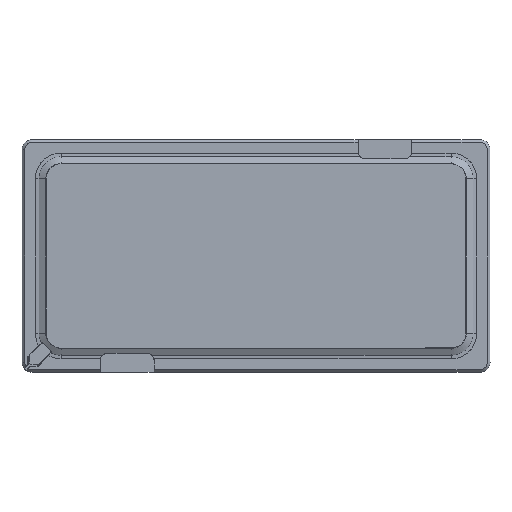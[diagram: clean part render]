
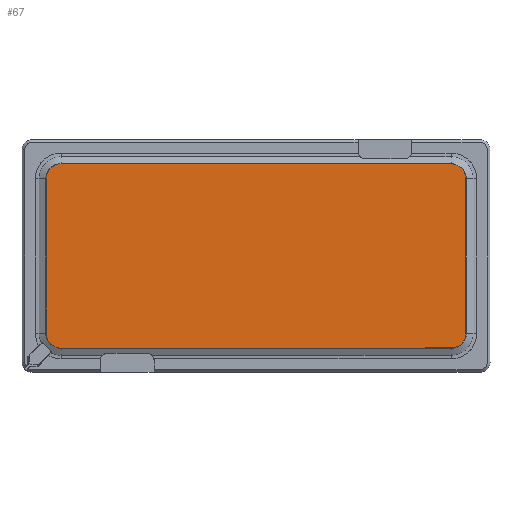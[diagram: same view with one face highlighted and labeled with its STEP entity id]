
A CAD part, front view. The second image highlights one B-rep face of the part: STEP entity #67.
In plain terms, the highlighted planar face has unit normal (0, -1, 0).
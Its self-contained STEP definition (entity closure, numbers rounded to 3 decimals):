
#67=ADVANCED_FACE('',(#222),#2452,.T.);
#222=FACE_OUTER_BOUND('',#379,.T.);
#379=EDGE_LOOP('',(#738));
#738=ORIENTED_EDGE('',*,*,#1371,.F.);
#1371=EDGE_CURVE('',#2163,#2163,#1717,.T.);
#1717=(
BOUNDED_CURVE()
B_SPLINE_CURVE(2,(#4872,#4873,#4874,#4875,#4876,#4877,#4878,#4879,#4880,
#4881,#4882,#4883,#4884,#4885,#4886,#4887,#4888),.UNSPECIFIED.,.T.,.F.)
B_SPLINE_CURVE_WITH_KNOTS((3,2,2,2,2,2,2,2,3),(-232.,0.,13.901,
105.801,119.702,351.702,365.602,457.502,
471.403),.UNSPECIFIED.)
CURVE()
GEOMETRIC_REPRESENTATION_ITEM()
RATIONAL_B_SPLINE_CURVE((1.,1.,1.,0.707,1.,1.,1.,0.707,
1.,1.,1.,0.707,1.,1.,1.,0.707,1.))
REPRESENTATION_ITEM('')
);
#2163=VERTEX_POINT('',#4480);
#2452=PLANE('',#2623);
#2623=AXIS2_PLACEMENT_3D('',#3392,#2733,$);
#2733=DIRECTION('',(0.,-1.,0.));
#3392=CARTESIAN_POINT('',(372.654,52.116,7.645));
#4480=CARTESIAN_POINT('',(384.,52.116,6.55));
#4872=CARTESIAN_POINT('',(384.,52.116,6.55));
#4873=CARTESIAN_POINT('',(500.,52.116,6.55));
#4874=CARTESIAN_POINT('',(616.,52.116,6.55));
#4875=CARTESIAN_POINT('',(624.85,52.116,6.55));
#4876=CARTESIAN_POINT('',(624.85,52.116,-2.3));
#4877=CARTESIAN_POINT('',(624.85,52.116,-48.25));
#4878=CARTESIAN_POINT('',(624.85,52.116,-94.2));
#4879=CARTESIAN_POINT('',(624.85,52.116,-103.05));
#4880=CARTESIAN_POINT('',(616.,52.116,-103.05));
#4881=CARTESIAN_POINT('',(500.,52.116,-103.05));
#4882=CARTESIAN_POINT('',(384.,52.116,-103.05));
#4883=CARTESIAN_POINT('',(375.15,52.116,-103.05));
#4884=CARTESIAN_POINT('',(375.15,52.116,-94.2));
#4885=CARTESIAN_POINT('',(375.15,52.116,-48.25));
#4886=CARTESIAN_POINT('',(375.15,52.116,-2.3));
#4887=CARTESIAN_POINT('',(375.15,52.116,6.55));
#4888=CARTESIAN_POINT('',(384.,52.116,6.55));
